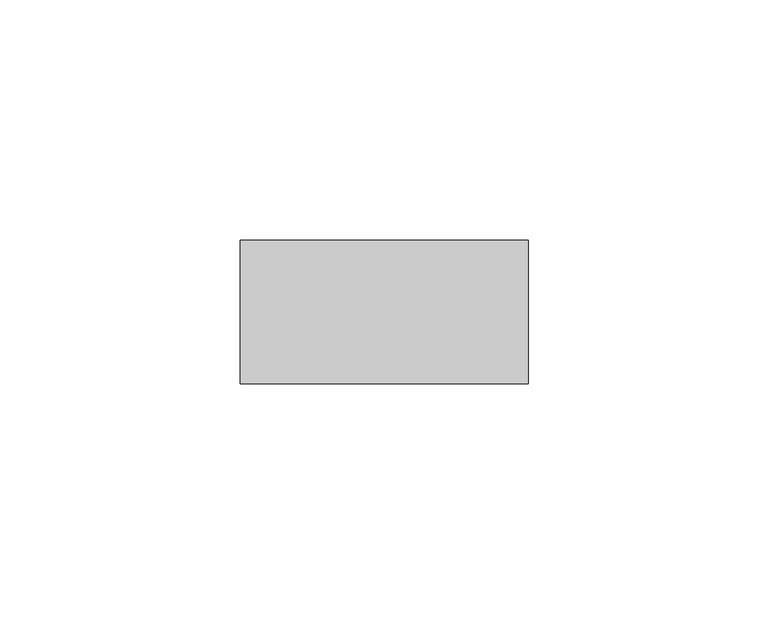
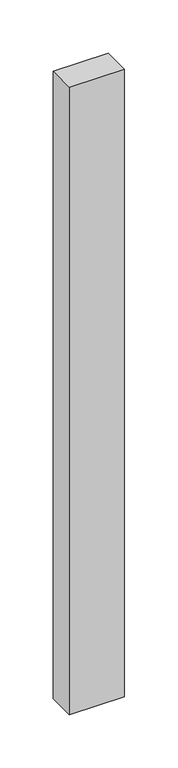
"""IFC4 building model written with IfcOpenShell, lengths in millimetres: member geometry, Прямоугольный импост : Квадрат 30 мм."""

from ifc_helpers import new_model, si_unit, frame, origin, place, context, project, spatial, polyline, outline, extrude, source, transform, mapped, element, save


def member_34007882(model_context):
    return source(origin(), model_context, "Body", "SweptSolid", [
        extrude(outline(polyline([(30.0, 15.0), (30.0, -15.0), (-30.0, -15.0), (-30.0, 15.0), (30.0, 15.0)])), frame((0.0, 0.0, -720.0), z_axis=(0.0, 0.0, 1.0), x_axis=(1.0, 0.0, 0.0)), (0.0, 0.0, 1.0), 720.0),
    ])


if __name__ == "__main__":
    model = new_model("IFC4")
    model_context = context("Model", 3, world=origin())
    ifc_project = project(units=[si_unit("LENGTHUNIT", "METRE", prefix="MILLI")], contexts=[model_context])
    site = spatial("IfcSite", under=ifc_project)
    building = spatial("IfcBuilding", under=site)
    placement = place(None, origin())
    member_shape = member_34007882(model_context)
    element("IfcMember", 1, ObjectType="Прямоугольный импост : Квадрат 30 мм", at=placement, inside=building, context=model_context, shape_type="MappedRepresentation", body=[
        mapped(member_shape, transform((0.0, 0.0, 0.0), x_axis=(1.0, 0.0, 0.0), y_axis=(0.0, 1.0, 0.0), z_axis=(0.0, 0.0, 1.0))),
    ])
    save(model, "model.ifc")
